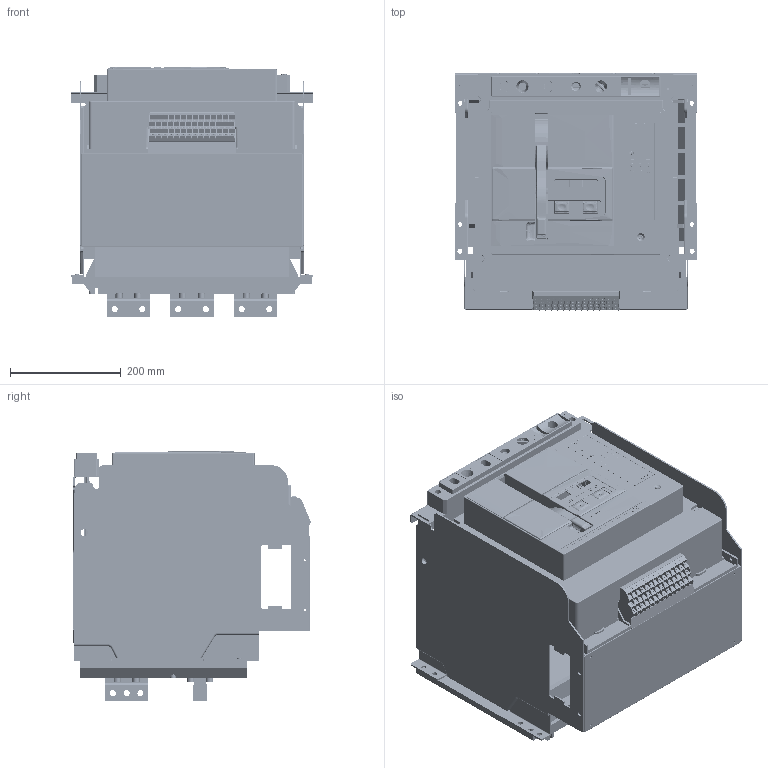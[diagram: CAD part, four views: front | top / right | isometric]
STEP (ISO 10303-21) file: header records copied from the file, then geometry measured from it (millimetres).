
FILE_DESCRIPTION((''),'2;1');
FILE_NAME('NA8-4000H-3P-D-1600A-2500A-HV_ASM','2021-11-08T13:50:49',('lcc'),(''),'CREO PARAMETRIC BY PTC INC, 2020044','CREO PARAMETRIC BY PTC INC, 2020044','');
FILE_SCHEMA(('CONFIG_CONTROL_DESIGN','SHAPE_APPEARANCE_LAYERS_GROUPS'));
Products named in the file (25): 8050A0306126T2; 8050A0306120T; 8050A0306121T; 8300A0306003; 8ZTD-300-536; 8ZTD-227-004; 40-3P-DIBAN02; 8ZTD-060-207; 8ZTD-253-779; 8ZTD-253-780; 8ZTD-253-782; 8-040-432; 8-004-030; 8-860-KZQ; 8-320-094; 8ZTD-253-577; 8ZTD-064-136; 8ZTD-024-837T; 8ZTD-860-699; 5ZTD-558-695-4000_ASM; 8580A0412008; GBT70_1-M8X20; GB93-8_1; QNKJ_0200012_2-M8X20_ASM; NA8-4000H-3P-D-1600A-2500A-HV_ASM
Assembly tree (65 placements, depth 3):
  NA8-4000H-3P-D-1600A-2500A-HV_ASM
    8050A0306126T2
    8050A0306120T
    8050A0306121T
    8300A0306003
    8ZTD-300-536
    8ZTD-227-004
    40-3P-DIBAN02
    8ZTD-060-207
    8ZTD-253-779
    8ZTD-253-780
    8ZTD-253-782
    8-040-432
    8-004-030
    8-860-KZQ
    8-320-094
    8ZTD-253-577
    5ZTD-558-695-4000_ASM
      8ZTD-064-136
      8ZTD-024-837T  x14
      8ZTD-860-699
    8580A0412008  x6
    QNKJ_0200012_2-M8X20_ASM  x24
      GBT70_1-M8X20
      GB93-8_1
Bounding box: 439 x 429.53 x 452.18 mm (x, y, z)
Volume: 13733180.8 mm3; surface area: 3095725 mm2
Topology: 85 solids, 163 shells, 8854 faces, 23621 edges, 15258 vertices
Faces by surface type: plane 5781, cylinder 1880, cone 404, torus 318, extrusion 222, bspline 219, sphere 30
Entity records: 311108 total; most frequent: CARTESIAN_POINT 63887, ORIENTED_EDGE 35517, DIRECTION 32246, PRESENTATION_STYLE_ASSIGNMENT 21780, STYLED_ITEM 21629, CURVE_STYLE 17882, EDGE_CURVE 17800, VECTOR 13246
